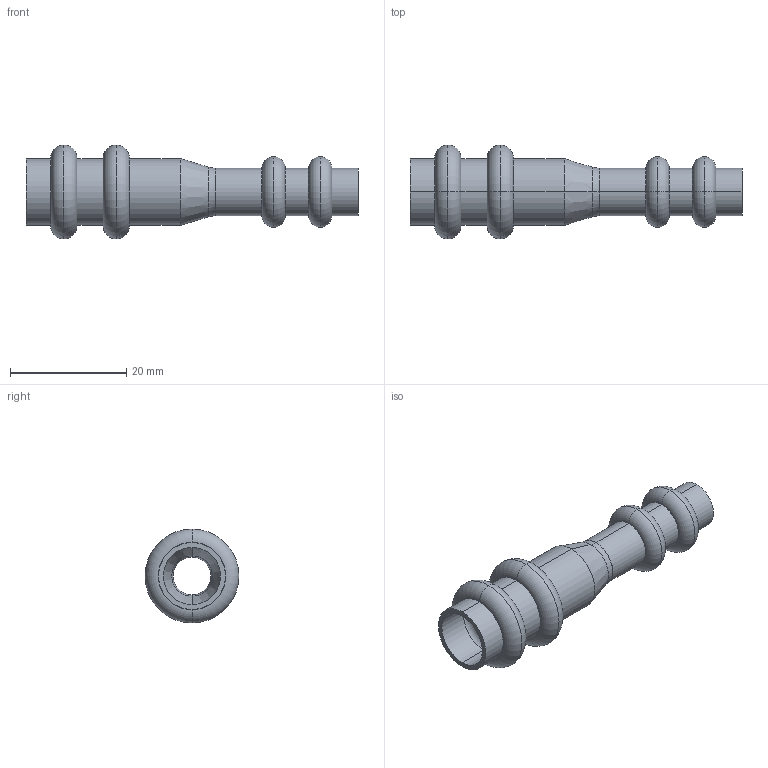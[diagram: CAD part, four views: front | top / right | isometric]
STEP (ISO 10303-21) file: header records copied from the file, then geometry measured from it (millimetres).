
FILE_DESCRIPTION(('starvars output'),'1');
FILE_NAME('cv20240422105230000011952.stp','10:52:31 2024/04/22',('Thomas Industrial Network Germany GmbH'),(' '),'Spatial InterOp 3D',' ',' ');
FILE_SCHEMA(('AUTOMOTIVE_DESIGN { 1 0 10303 214 3 1 1 }'));
Length unit declared in the file: millimetre
Products named in the file (1): 1
Bounding box: 57 x 16.1 x 16.1 mm (x, y, z)
Volume: 1890.5 mm3; surface area: 4320.9 mm2
Topology: 1 solids, 1 shells, 84 faces, 168 edges, 104 vertices
Faces by surface type: torus 36, cylinder 24, plane 20, cone 4
Entity records: 2940 total; most frequent: DIRECTION 478, CARTESIAN_POINT 357, ORIENTED_EDGE 336, AXIS2_PLACEMENT_3D 225, EDGE_CURVE 168, CIRCLE 140, EDGE_LOOP 104, VERTEX_POINT 104
